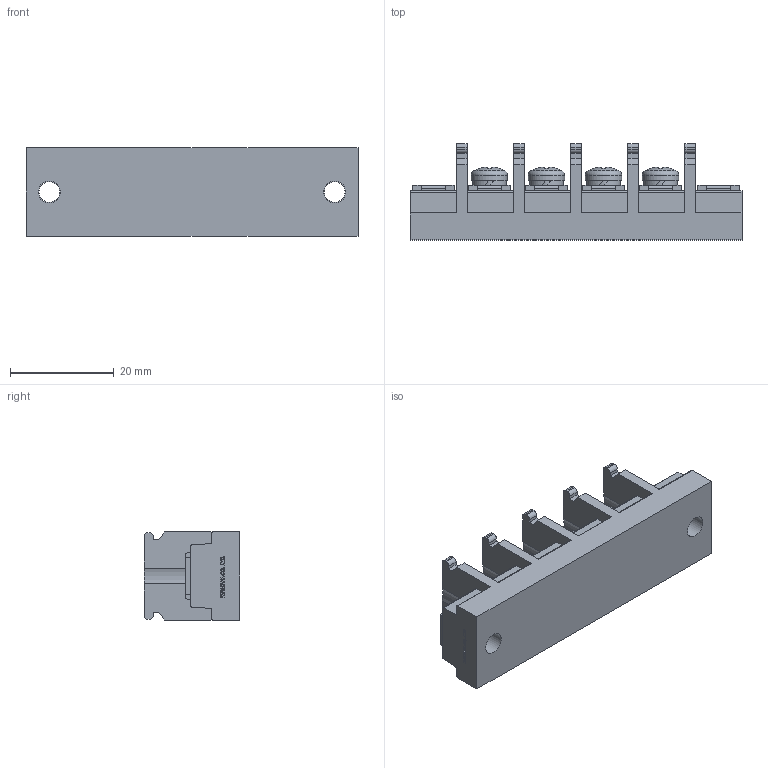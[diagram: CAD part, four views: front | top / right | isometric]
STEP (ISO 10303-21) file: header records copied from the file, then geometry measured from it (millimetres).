
FILE_DESCRIPTION(/* description */ ('Alibre Inc.'),/* implementation_level */ '2;1');
FILE_NAME(/* name */ 'export0',/* time_stamp */ '2015-10-19T19:21:03+09:00',/* author */ (''),/* organization */ (''),/* preprocessor_version */ 'ST-DEVELOPER v14',/* originating_system */ 'Alibre',/* authorisation */ '');
FILE_SCHEMA (('CONFIG_CONTROL_DESIGN'));
Length unit declared in the file: centimetre
Products named in the file (1): ID_1
Bounding box: 64 x 18.5 x 17 mm (x, y, z)
Volume: 11227.3 mm3; surface area: 6399.7 mm2
Topology: 1 solids, 1 shells, 724 faces, 2000 edges, 1330 vertices
Faces by surface type: plane 510, bspline 104, cylinder 82, cone 16, torus 8, sphere 4
Full cylindrical faces by diameter (mm): 4 x6, 4.2 x2, 6.5 x4, 7 x4
Entity records: 22401 total; most frequent: CARTESIAN_POINT 5052, ORIENTED_EDGE 3932, DIRECTION 2719, EDGE_CURVE 1966, VECTOR 1437, LINE 1437, VERTEX_POINT 1316, AXIS2_PLACEMENT_3D 891
